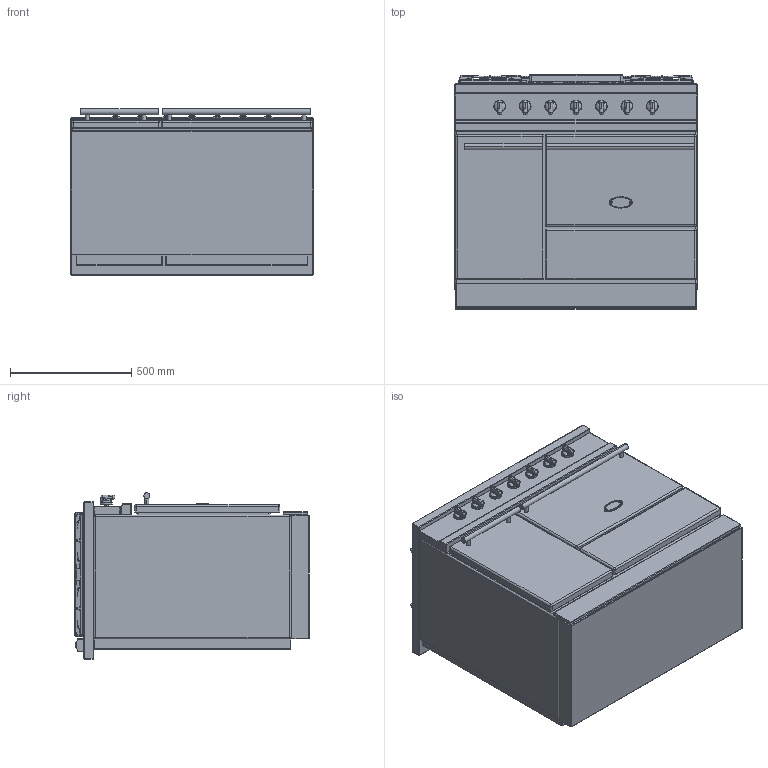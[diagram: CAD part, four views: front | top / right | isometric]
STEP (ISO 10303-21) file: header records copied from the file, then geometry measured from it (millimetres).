
FILE_DESCRIPTION((''),'2;1');
FILE_NAME('LMCF1051_VOLNAY_ASM','2022-04-13T11:59:33',('stagiaire'),(''),'CREO PARAMETRIC BY PTC INC, 2021424','CREO PARAMETRIC BY PTC INC, 2021424','');
FILE_SCHEMA(('AP203_CONFIGURATION_CONTROLLED_3D_DESIGN_OF_MECHANICAL_PARTS_AND_ASSEMBLIES_MIM_LF { 1 0 10303 403 2 1 2 }'));
Products named in the file (21): BASE_EXPORT_VOLNAY_MODERN; 65049009; 65650001; 65064012; 19150009; 88064012_ASM; BASE_EXPORT_VOLNAY_MODERN_ASM; TABLE_1000_CLASSIQUE; 3KW; 5KW; 1_5KW; 4KW; 65062008; 65062012; 65149005; 90000549_ASM; 6537024; 90000487_ASM; CHEMINEE_2020_LG371_EXPORT_STEP; TABLE_1000_TRADITION_ASM; LMCF1051_VOLNAY_ASM
Assembly tree (36 placements, depth 4):
  LMCF1051_VOLNAY_ASM
    BASE_EXPORT_VOLNAY_MODERN_ASM
      BASE_EXPORT_VOLNAY_MODERN
      65049009
      65650001
      88064012_ASM  x7
        65064012
        19150009
    TABLE_1000_TRADITION_ASM
      TABLE_1000_CLASSIQUE
      3KW  x2
      5KW
      1_5KW
      4KW
      90000549_ASM
        65062008
        65062012
        65149005  x4
      90000487_ASM  x2
        6537024
        65149005
      CHEMINEE_2020_LG371_EXPORT_STEP  x2
Bounding box: 1000 x 967 x 687.5 mm (x, y, z)
Volume: 534439079.3 mm3; surface area: 9001070.3 mm2
Topology: 45 solids, 45 shells, 6819 faces, 18387 edges, 11663 vertices
Faces by surface type: plane 2830, cylinder 1936, bspline 1153, sphere 386, cone 263, torus 209, extrusion 42
Entity records: 195748 total; most frequent: CARTESIAN_POINT 56338, ORIENTED_EDGE 22332, DIRECTION 20548, EDGE_CURVE 11166, PRESENTATION_STYLE_ASSIGNMENT 8826, STYLED_ITEM 8826, CURVE_STYLE 8697, VECTOR 7690
